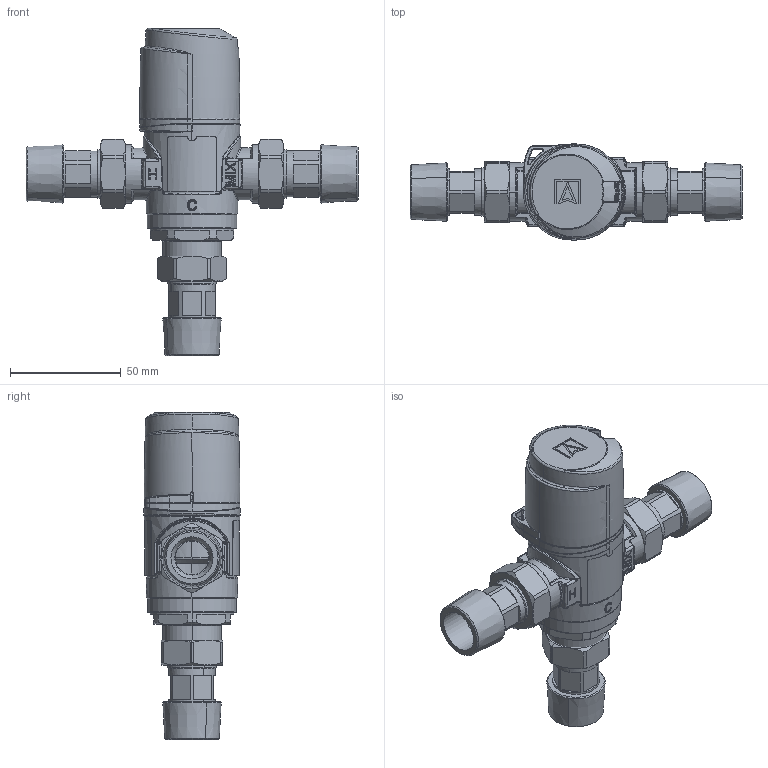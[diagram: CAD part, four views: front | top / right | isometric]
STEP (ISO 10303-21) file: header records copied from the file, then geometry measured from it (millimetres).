
FILE_DESCRIPTION (( 'STEP AP214' ), '1' );
FILE_NAME ('ATM343_Zawor_termostatyczny_DN15_1234344_0_3D_AFRISO.STEP', '2024-03-18T11:43:32', ( '' ), ( '' ), 'SwSTEP 2.0', 'SolidWorks 2022', '' );
FILE_SCHEMA (( 'AUTOMOTIVE_DESIGN' ));
Length unit declared in the file: millimetre
Products named in the file (11): 3_4inch; Zestaw_srubunkow_1220110_0_3D_AFRISO; 21779; ATM343_Zawor_termostatyczny_DN15_1234344_0_3D_AFRISO; 2; 67082; 41180; 67079; 67081; 67197; 67080
Assembly tree (12 placements, depth 3):
  ATM343_Zawor_termostatyczny_DN15_1234344_0_3D_AFRISO
    41180
    67082
    67079
    21779
    67081
    67197
    67080
    Zestaw_srubunkow_1220110_0_3D_AFRISO  x3
      2
      3_4inch
Bounding box: 150 x 43.4 x 147.75 mm (x, y, z)
Volume: 85333.3 mm3; surface area: 87531.6 mm2
Topology: 11 solids, 474 shells, 3450 faces, 9663 edges, 6495 vertices
Faces by surface type: bspline 1254, cylinder 1111, plane 760, cone 311, torus 14
Entity records: 171393 total; most frequent: CARTESIAN_POINT 80743, ORIENTED_EDGE 15522, DIRECTION 12626, EDGE_CURVE 8881, VERTEX_POINT 6162, AXIS2_PLACEMENT_3D 4924, EDGE_LOOP 3314, ADVANCED_FACE 3229
